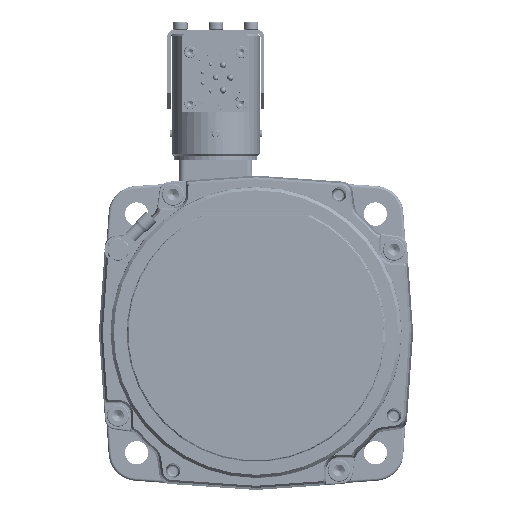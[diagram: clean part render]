
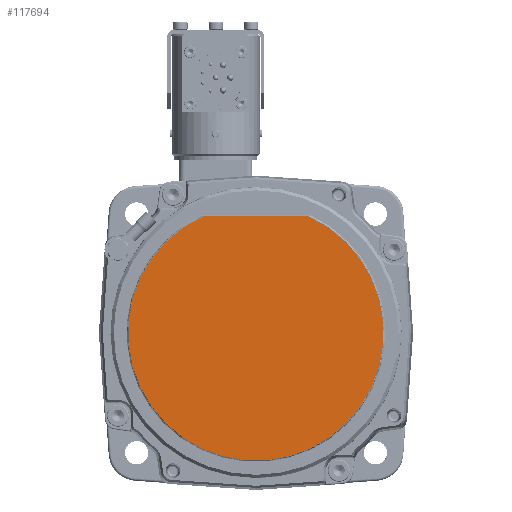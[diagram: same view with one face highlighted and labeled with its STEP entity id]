
A CAD part, top view. The second image highlights one B-rep face of the part: STEP entity #117694.
In plain terms, the highlighted planar face has unit normal (0, 0, 1).
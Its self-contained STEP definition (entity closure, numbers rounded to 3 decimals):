
#109195=CARTESIAN_POINT('',(0.,0.,63.9));
#109196=DIRECTION('',(0.,0.,-1.));
#109197=DIRECTION('',(0.418,0.908,0.));
#109198=AXIS2_PLACEMENT_3D('',#109195,#109196,#109197);
#109207=DIRECTION('',(-1.,0.,0.));
#109208=VECTOR('',#109207,41.125);
#109209=CARTESIAN_POINT('',(20.562,44.7,63.9));
#109210=LINE('',#109209,#109208);
#109885=CARTESIAN_POINT('',(20.562,44.7,63.9));
#109886=CARTESIAN_POINT('',(-20.562,44.7,63.9));
#109887=VERTEX_POINT('',#109885);
#109888=VERTEX_POINT('',#109886);
#117685=CARTESIAN_POINT('',(0.,0.,63.9));
#117686=DIRECTION('',(0.,0.,1.));
#117687=DIRECTION('',(1.,0.,0.));
#117688=AXIS2_PLACEMENT_3D('',#117685,#117686,#117687);
#117689=PLANE('',#117688);
#117690=ORIENTED_EDGE('',*,*,#117664,.T.);
#117691=ORIENTED_EDGE('',*,*,#117676,.F.);
#117692=EDGE_LOOP('',(#117690,#117691));
#117693=FACE_OUTER_BOUND('',#117692,.F.);
#117694=ADVANCED_FACE('',(#117693),#117689,.T.);
#109199=CIRCLE('',#109198,49.203);
#117664=EDGE_CURVE('',#109887,#109888,#109199,.T.);
#117676=EDGE_CURVE('',#109887,#109888,#109210,.T.);
